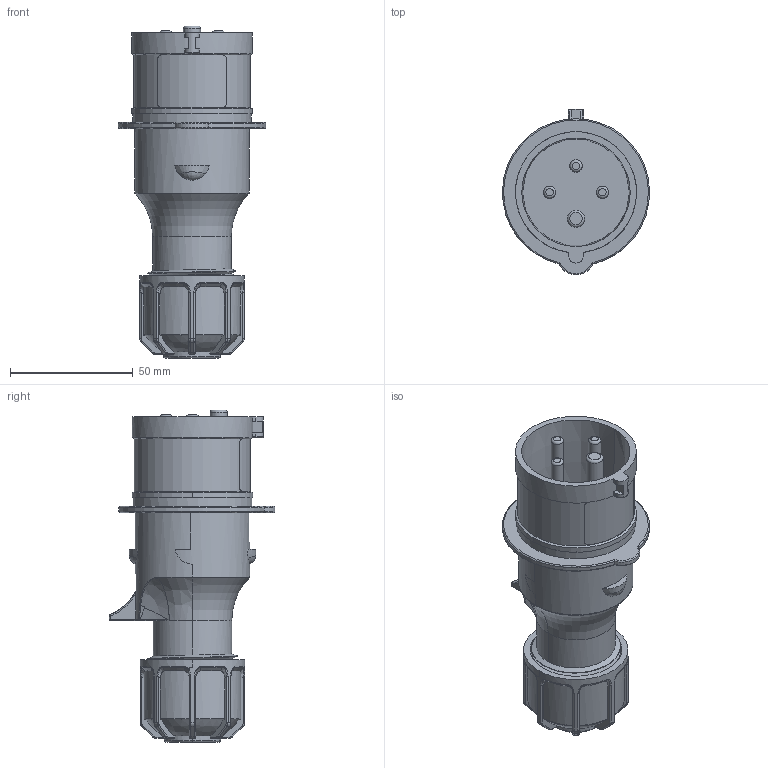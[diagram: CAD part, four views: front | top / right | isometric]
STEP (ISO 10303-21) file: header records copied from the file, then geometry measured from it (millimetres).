
FILE_DESCRIPTION(('FreeCAD Model'),'2;1');
FILE_NAME('Open CASCADE Shape Model','2026-02-04T09:35:44',(''),(''), 'Open CASCADE STEP processor 7.8','FreeCAD','Unknown');
FILE_SCHEMA(('AUTOMOTIVE_DESIGN { 1 0 10303 214 1 1 1 1 }'));
Length unit declared in the file: millimetre
Products named in the file (7): TL3P16443; Tomada; Pino L3; Pino Terra; Pino L2; Pino L1; Prensa cabo
Assembly tree (6 placements, depth 2):
  TL3P16443
    Tomada
    Pino L3
    Pino Terra
    Pino L2
    Pino L1
    Prensa cabo
Bounding box: 59.97 x 67.6 x 135.3 mm (x, y, z)
Volume: 112579.1 mm3; surface area: 43972.3 mm2
Topology: 6 solids, 35 shells, 557 faces, 1302 edges, 822 vertices
Faces by surface type: bspline 206, plane 154, cylinder 114, torus 53, cone 24, sphere 6
Full cylindrical faces by diameter (mm): 5 x3, 7 x1, 48.5 x1
Entity records: 36019 total; most frequent: CARTESIAN_POINT 24839, ORIENTED_EDGE 2600, DIRECTION 1757, EDGE_CURVE 1300, VERTEX_POINT 822, AXIS2_PLACEMENT_3D 706, B_SPLINE_CURVE_WITH_KNOTS 599, FACE_BOUND 566
